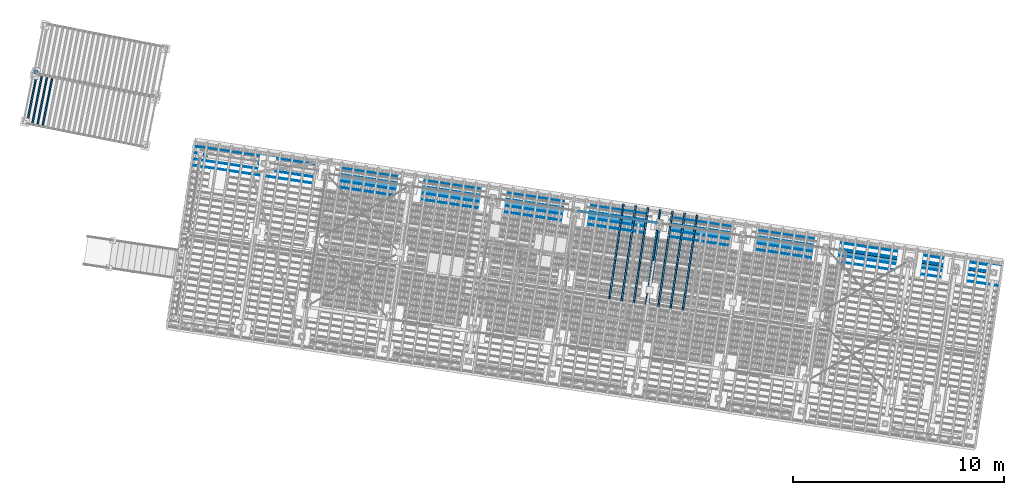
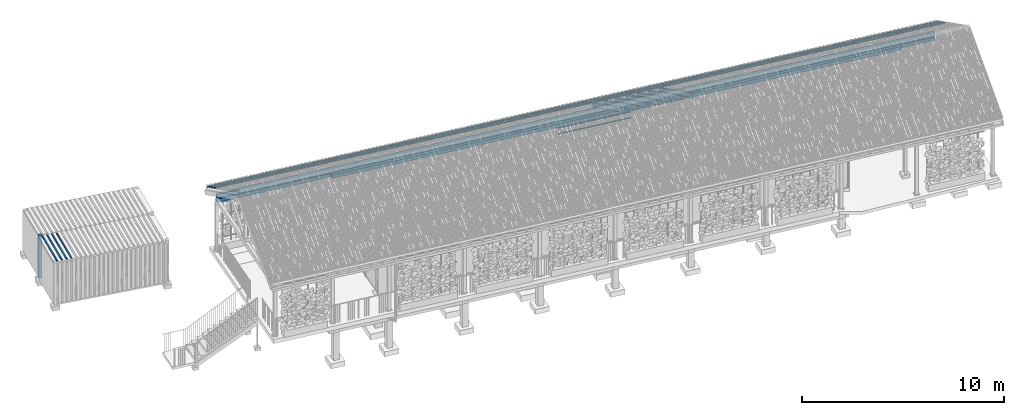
# One storey, part 81 of 131: 19 members, 3 beams, 4 elements without a shape of their own.
"""IFC4 building model written with IfcOpenShell, lengths in metres."""

import ifcopenshell
import ifcopenshell.guid

model = None  # the IFC model being written
_history = None  # IfcOwnerHistory: only IFC2X3 demands one
_inside = {}  # id of a spatial element -> (the spatial element, [elements in it])
_under = {}  # id of a project, library or spatial element -> (it, [spatial elements below it])
_declared = {}  # id of a project -> (the project, [libraries it declares])
_typed = {}  # id of a type object -> (the type object, [elements of that type])
_made_of = {}  # id of a material, layer set ... -> (it, [elements and type objects made of it])


def new_model(schema):
    """Start an empty IFC model of exactly this schema.

    Asked for "IFC4X3", IfcOpenShell would pick the latest addendum, in which some entities
    have other attributes; the version numbers below select the first issue.
    IFC2X3 requires an IfcOwnerHistory on every rooted entity: one is made here for all.
    """
    global model, _history
    if schema == "IFC4X3":
        model = ifcopenshell.file(schema_version=(4, 3, 0, 0))
    else:
        model = ifcopenshell.file(schema=schema)
    _inside.clear()
    _under.clear()
    _declared.clear()
    _typed.clear()
    _made_of.clear()
    _history = None
    if model.schema == "IFC2X3":
        org = make("IfcOrganization", Name="unknown")
        user = make(
            "IfcPersonAndOrganization",
            ThePerson=make("IfcPerson", FamilyName="unknown"),
            TheOrganization=org,
        )
        app = make(
            "IfcApplication",
            ApplicationDeveloper=org,
            Version="unknown",
            ApplicationFullName="unknown",
            ApplicationIdentifier="unknown",
        )
        _history = make(
            "IfcOwnerHistory",
            OwningUser=user,
            OwningApplication=app,
            ChangeAction="ADDED",
            CreationDate=0,
        )
    return model


def make(cls, **values):
    """One entity of the class cls with the attributes given. An attribute that is None is left unset."""
    return model.create_entity(
        cls, **{name: value for name, value in values.items() if value is not None}
    )


def rooted(cls, **values):
    """An entity with a GlobalId (a new one), such as an element, a storey or a relation."""
    return make(cls, GlobalId=ifcopenshell.guid.new(), OwnerHistory=_history, **values)


def si_unit(unit_type, name, prefix=None):
    """IfcSIUnit, for example si_unit("LENGTHUNIT", "METRE", prefix="MILLI")."""
    return make("IfcSIUnit", UnitType=unit_type, Prefix=prefix, Name=name)


def assignment(units):
    """IfcUnitAssignment: the units of a project."""
    return None if units is None else make("IfcUnitAssignment", Units=units)


def point(xyz):
    """IfcCartesianPoint."""
    return None if xyz is None else make("IfcCartesianPoint", Coordinates=xyz)


def direction(xyz):
    """IfcDirection."""
    return None if xyz is None else make("IfcDirection", DirectionRatios=xyz)


def frame(location, z_axis=None, x_axis=None):
    """IfcAxis2Placement3D, a coordinate frame: its origin and axes. An axis left out is left unset."""
    return make(
        "IfcAxis2Placement3D",
        Location=point(location),
        Axis=direction(z_axis),
        RefDirection=direction(x_axis),
    )


def origin_with_axes():
    """The frame at (0, 0, 0) with the z axis (0, 0, 1) and the x axis (1, 0, 0) written out."""
    return frame((0.0, 0.0, 0.0), z_axis=(0.0, 0.0, 1.0), x_axis=(1.0, 0.0, 0.0))


def place(relative_to, where):
    """IfcLocalPlacement: puts the frame where relative to a parent placement (None: the world)."""
    return make(
        "IfcLocalPlacement", PlacementRelTo=relative_to, RelativePlacement=where
    )


def context(
    kind, dimensions, precision=None, world=None, true_north=None, identifier=None
):
    """IfcGeometricRepresentationContext, for example the 3D "Model" context."""
    return make(
        "IfcGeometricRepresentationContext",
        ContextIdentifier=identifier,
        ContextType=kind,
        CoordinateSpaceDimension=dimensions,
        Precision=precision,
        WorldCoordinateSystem=world,
        TrueNorth=true_north,
    )


def subcontext(parent, identifier, kind, view, scale=None):
    """IfcGeometricRepresentationSubContext, for example "Body" below "Model"."""
    return make(
        "IfcGeometricRepresentationSubContext",
        ContextIdentifier=identifier,
        ContextType=kind,
        ParentContext=parent,
        TargetScale=scale,
        TargetView=view,
    )


def project(units=None, contexts=None):
    """IfcProject with its units and contexts."""
    return rooted(
        "IfcProject",
        Name="project",
        RepresentationContexts=contexts,
        UnitsInContext=assignment(units),
    )


def spatial(cls, under=None, at=None, **own):
    """A site, building, storey or space (cls), placed at a placement, below another one or the project."""
    s = rooted(cls, ObjectPlacement=at, **own)
    if under is not None:
        _under.setdefault(under.id(), (under, []))[1].append(s)
    return s


def polyline(points):
    """IfcPolyline through the points."""
    return make("IfcPolyline", Points=[point(p) for p in points])


def profile(cls, at=None, kind="AREA", **sizes):
    """A parametric profile (cls). Its sizes go by their IFC names, for example OverallWidth=200.0."""
    return make(cls, ProfileType=kind, Position=at, **sizes)


def rectangle(**sizes):
    """IfcRectangleProfileDef."""
    return profile("IfcRectangleProfileDef", **sizes)


def outline(outer, holes=None, kind="AREA"):
    """IfcArbitraryClosedProfileDef: a profile drawn as a closed curve; with holes, ...WithVoids."""
    if holes is None:
        return make("IfcArbitraryClosedProfileDef", ProfileType=kind, OuterCurve=outer)
    return make(
        "IfcArbitraryProfileDefWithVoids",
        ProfileType=kind,
        OuterCurve=outer,
        InnerCurves=holes,
    )


def extrude(swept, where, along, depth):
    """IfcExtrudedAreaSolid: the profile swept, set in the frame where, extruded along a direction by depth."""
    return make(
        "IfcExtrudedAreaSolid",
        SweptArea=swept,
        Position=where,
        ExtrudedDirection=direction(along),
        Depth=depth,
    )


def shape(context_of_items, identifier, shape_type, items):
    """IfcShapeRepresentation: the items that make up one representation, for example the "Body"."""
    return make(
        "IfcShapeRepresentation",
        ContextOfItems=context_of_items,
        RepresentationIdentifier=identifier,
        RepresentationType=shape_type,
        Items=items,
    )


def material(Name=None, Category=None):
    """IfcMaterial."""
    return make("IfcMaterial", Name=Name, Category=Category)


def material_profile(
    of_material, cross_section, Name=None, Category=None, Priority=None
):
    """IfcMaterialProfile: a cross section and its material."""
    return make(
        "IfcMaterialProfile",
        Name=Name,
        Material=of_material,
        Profile=cross_section,
        Priority=Priority,
        Category=Category,
    )


def profile_set(profiles, Name=None, composite=None):
    """IfcMaterialProfileSet."""
    return make(
        "IfcMaterialProfileSet",
        Name=Name,
        MaterialProfiles=profiles,
        CompositeProfile=composite,
    )


def profile_usage(for_profile_set, cardinal=None, extent=None):
    """IfcMaterialProfileSetUsage: how a profile set lies along its element."""
    return make(
        "IfcMaterialProfileSetUsage",
        ForProfileSet=for_profile_set,
        CardinalPoint=cardinal,
        ReferenceExtent=extent,
    )


def made_of(thing, what):
    """Note that an element or type object is made of a material, layer set ...; save() writes the relation."""
    if what is not None:
        _made_of.setdefault(what.id(), (what, []))[1].append(thing)
    return thing


def type_object(cls, material=None, **own):
    """A type object (cls), such as IfcWallType, which elements share."""
    return made_of(rooted(cls, **own), material)


def element(
    cls,
    number,
    at=None,
    inside=None,
    cuts=None,
    type_object=None,
    material=None,
    context=None,
    identifier="Body",
    shape_type=None,
    held_by="IfcProductDefinitionShape",
    body=None,
    shapes=None,
    **own,
):
    """One element of the class cls, such as IfcWall. Its Tag is "e" and its number.

    at: its placement. inside: the storey or other place that contains it. cuts: it is an
    opening in that element (IfcRelVoidsElement). A single representation is given by context,
    identifier, shape_type and body (its items); several are given by shapes. held_by: the class
    of the entity that holds the representations. save() writes the other relations.
    """
    e = rooted(cls, Tag="e%d" % number, ObjectPlacement=at, **own)
    if body is not None:
        shapes = [shape(context, identifier, shape_type, body)]
    if shapes is not None:
        e.Representation = make(held_by, Representations=shapes)
    if inside is not None:
        _inside.setdefault(inside.id(), (inside, []))[1].append(e)
    if cuts is not None:
        rooted(
            "IfcRelVoidsElement", RelatingBuildingElement=cuts, RelatedOpeningElement=e
        )
    if type_object is not None:
        _typed.setdefault(type_object.id(), (type_object, []))[1].append(e)
    return made_of(e, material)


def aggregate(whole, parts):
    """IfcRelAggregates: a whole, such as a stair, and the parts it consists of."""
    return rooted("IfcRelAggregates", RelatingObject=whole, RelatedObjects=parts)


def save(model, path):
    """Write the relations noted so far, then the file.

    IfcRelAggregates (storeys below a building ...), IfcRelContainedInSpatialStructure (elements
    in a storey), IfcRelDefinesByType, IfcRelAssociatesMaterial and IfcRelDeclares: one each for
    every whole, place, type object, material and project.
    """
    for whole, parts in _under.values():
        aggregate(whole, parts)
    for where, things in _inside.values():
        rooted(
            "IfcRelContainedInSpatialStructure",
            RelatedElements=things,
            RelatingStructure=where,
        )
    for kind, things in _typed.values():
        rooted("IfcRelDefinesByType", RelatedObjects=things, RelatingType=kind)
    for what, things in _made_of.values():
        rooted("IfcRelAssociatesMaterial", RelatedObjects=things, RelatingMaterial=what)
    for by, libraries in _declared.values():
        rooted("IfcRelDeclares", RelatingContext=by, RelatedDefinitions=libraries)
    model.write(path)


model = new_model("IFC4")

# Units and contexts
model_context = context("Model", 3, precision=1e-05, world=origin_with_axes(), true_north=direction((0.0, 1.0)))
body_context = subcontext(model_context, "Body", "Model", "MODEL_VIEW")
ifc_project = project(units=[si_unit("VOLUMEUNIT", "CUBIC_METRE"), si_unit("LENGTHUNIT", "METRE"), si_unit("AREAUNIT", "SQUARE_METRE")], contexts=[model_context])

# Site, building, storey
site_placement = place(None, origin_with_axes())
site = spatial("IfcSite", under=ifc_project, at=site_placement, Name="Lares · Rua das Mercês · artigo 4771")
building_placement = place(site_placement, frame((15.0, 9.7, 14.65), z_axis=(0.0, 0.0, 1.0), x_axis=(0.989015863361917, -0.147809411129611, 0.0)))
building = spatial("IfcBuilding", under=site, at=building_placement, Name="Casa Sobreposta")
storey_placement = place(building_placement, origin_with_axes())
storey = spatial("IfcBuildingStorey", under=building, at=storey_placement, Name="00 · Habitação e estacionamento", Elevation=14.65)

# Beam
ifc_material_1 = material(Name="Madeira / Bauholz", Category="wood")
ifc_material_profile_1 = material_profile(ifc_material_1, rectangle(XDim=0.16, YDim=0.22))
ifc_profile_set_1 = profile_set([ifc_material_profile_1], Name="TIMBER0.160x0.220")
ifc_profile_usage_1 = profile_usage(ifc_profile_set_1)
beam_type_1 = type_object("IfcBeamType", Name="TIMBER0.160x0.220 / timber", PredefinedType="NOTDEFINED", material=ifc_profile_set_1)
beam_1_placement = place(storey_placement, frame((0.0, 6.28, 3.0), z_axis=(1.0, 0.0, 0.0), x_axis=(0.0, -1.0, 0.0)))
element("IfcBeam", 1, at=beam_1_placement, inside=storey, type_object=beam_type_1, material=ifc_profile_usage_1, Name="Cobertura · frechal longitudinal", context=body_context, shape_type="SweptSolid", body=[
    extrude(rectangle(XDim=0.16, YDim=0.22), origin_with_axes(), (0.0, 0.0, 1.0), 30.22),
])

# Assembly, beam
assembly_1_placement = place(storey_placement, origin_with_axes())
assembly_1 = element("IfcElementAssembly", 2, at=assembly_1_placement, inside=storey, Name="Varanda coberta · continuação integral da cobertura", ObjectType="COVERED_PODIUM_BALCONY", PredefinedType="USERDEFINED")
ifc_profile_usage_2 = profile_usage(ifc_profile_set_1)
beam_2_placement = place(assembly_1_placement, frame((-6.05, 6.43, 3.0), z_axis=(1.0, 0.0, 0.0), x_axis=(0.0, -1.0, 0.0)))
beam_2 = element("IfcBeam", 3, at=beam_2_placement, type_object=beam_type_1, material=ifc_profile_usage_2, Name="Varanda coberta · frechal", context=body_context, shape_type="SweptSolid", body=[
    extrude(rectangle(XDim=0.16, YDim=0.22), origin_with_axes(), (0.0, 0.0, 1.0), 38.1),
])
aggregate(assembly_1, [beam_2])

# Members
ifc_material_2 = material(Name="Aço pintado / Stahl lackiert", Category="steel")
ifc_material_profile_2 = material_profile(ifc_material_2, rectangle(XDim=0.035, YDim=0.035))
ifc_profile_set_2 = profile_set([ifc_material_profile_2], Name="R0.035")
ifc_profile_usage_3 = profile_usage(ifc_profile_set_2)
member_type_1 = type_object("IfcMemberType", Name="R0.035 / steel", PredefinedType="NOTDEFINED", material=ifc_profile_set_2)
member_1_placement = place(storey_placement, frame((12.08, 6.4, 2.35), z_axis=(1.0, 0.0, 0.0), x_axis=(0.0, -1.0, 0.0)))
element("IfcMember", 4, at=member_1_placement, inside=storey, type_object=member_type_1, material=ifc_profile_usage_3, Name="Rasgo norte 4 · travessa", context=body_context, shape_type="SweptSolid", body=[
    extrude(rectangle(XDim=0.035, YDim=0.035), origin_with_axes(), (0.0, 0.0, 1.0), 3.84),
])
ifc_profile_usage_4 = profile_usage(ifc_profile_set_2)
member_2_placement = place(storey_placement, frame((12.08, 6.4, 2.7), z_axis=(1.0, 0.0, 0.0), x_axis=(0.0, -1.0, 0.0)))
element("IfcMember", 5, at=member_2_placement, inside=storey, type_object=member_type_1, material=ifc_profile_usage_4, Name="Rasgo norte 4 · travessa", context=body_context, shape_type="SweptSolid", body=[
    extrude(rectangle(XDim=0.035, YDim=0.035), origin_with_axes(), (0.0, 0.0, 1.0), 3.84),
])

# Roof, members, beam
roof_placement = place(storey_placement, origin_with_axes())
roof = element("IfcRoof", 6, at=roof_placement, inside=storey, material=ifc_material_1, Name="Cobertura de telha · duas águas 30 graus", PredefinedType="GABLE_ROOF")
ifc_material_profile_3 = material_profile(ifc_material_1, rectangle(XDim=0.16, YDim=0.24))
ifc_profile_set_3 = profile_set([ifc_material_profile_3], Name="TIMBER0.160x0.240")
ifc_profile_usage_5 = profile_usage(ifc_profile_set_3)
member_type_2 = type_object("IfcMemberType", Name="TIMBER0.160x0.240 / timber", PredefinedType="NOTDEFINED", material=ifc_profile_set_3)
member_3_placement = place(roof_placement, frame((16.0, 2.55, 5.74420869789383), z_axis=(0.0, 0.866025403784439, -0.5), x_axis=(1.0, 0.0, 0.0)))
member_3 = element("IfcMember", 7, at=member_3_placement, type_object=member_type_2, material=ifc_profile_usage_5, Name="Tesoura · perna", context=body_context, shape_type="SweptSolid", body=[
    extrude(rectangle(XDim=0.16, YDim=0.24), origin_with_axes(), (0.0, 0.0, 1.0), 4.4802380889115),
])
ifc_material_profile_4 = material_profile(ifc_material_1, rectangle(XDim=0.08, YDim=0.24))
ifc_profile_set_4 = profile_set([ifc_material_profile_4], Name="TIMBER0.080x0.240")
ifc_profile_usage_6 = profile_usage(ifc_profile_set_4)
member_type_3 = type_object("IfcMemberType", Name="TIMBER0.080x0.240 / timber", PredefinedType="NOTDEFINED", material=ifc_profile_set_4)
member_4_placement = place(roof_placement, frame((14.1757575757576, 2.55, 5.75020869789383), z_axis=(0.0, 0.866025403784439, -0.5), x_axis=(1.0, 0.0, 0.0)))
member_4 = element("IfcMember", 8, at=member_4_placement, type_object=member_type_3, material=ifc_profile_usage_6, Name="Cobertura · caibro", context=body_context, shape_type="SweptSolid", body=[
    extrude(rectangle(XDim=0.08, YDim=0.24), origin_with_axes(), (0.0, 0.0, 1.0), 5.13841739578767),
])
ifc_profile_usage_7 = profile_usage(ifc_profile_set_4)
member_5_placement = place(roof_placement, frame((14.7636363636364, 2.55, 5.75020869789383), z_axis=(0.0, 0.866025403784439, -0.5), x_axis=(1.0, 0.0, 0.0)))
member_5 = element("IfcMember", 9, at=member_5_placement, type_object=member_type_3, material=ifc_profile_usage_7, Name="Cobertura · caibro", context=body_context, shape_type="SweptSolid", body=[
    extrude(rectangle(XDim=0.08, YDim=0.24), origin_with_axes(), (0.0, 0.0, 1.0), 5.13841739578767),
])
ifc_profile_usage_8 = profile_usage(ifc_profile_set_4)
member_6_placement = place(roof_placement, frame((15.3515151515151, 2.55, 5.75020869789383), z_axis=(0.0, 0.866025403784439, -0.5), x_axis=(1.0, 0.0, 0.0)))
member_6 = element("IfcMember", 10, at=member_6_placement, type_object=member_type_3, material=ifc_profile_usage_8, Name="Cobertura · caibro", context=body_context, shape_type="SweptSolid", body=[
    extrude(rectangle(XDim=0.08, YDim=0.24), origin_with_axes(), (0.0, 0.0, 1.0), 5.13841739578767),
])
ifc_profile_usage_9 = profile_usage(ifc_profile_set_4)
member_7_placement = place(roof_placement, frame((15.9393939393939, 2.55, 5.75020869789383), z_axis=(0.0, 0.866025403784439, -0.5), x_axis=(1.0, 0.0, 0.0)))
member_7 = element("IfcMember", 11, at=member_7_placement, type_object=member_type_3, material=ifc_profile_usage_9, Name="Cobertura · caibro", context=body_context, shape_type="SweptSolid", body=[
    extrude(rectangle(XDim=0.08, YDim=0.24), origin_with_axes(), (0.0, 0.0, 1.0), 5.13841739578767),
])
ifc_profile_usage_10 = profile_usage(ifc_profile_set_4)
member_8_placement = place(roof_placement, frame((16.5272727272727, 2.55, 5.75020869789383), z_axis=(0.0, 0.866025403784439, -0.5), x_axis=(1.0, 0.0, 0.0)))
member_8 = element("IfcMember", 12, at=member_8_placement, type_object=member_type_3, material=ifc_profile_usage_10, Name="Cobertura · caibro", context=body_context, shape_type="SweptSolid", body=[
    extrude(rectangle(XDim=0.08, YDim=0.24), origin_with_axes(), (0.0, 0.0, 1.0), 5.13841739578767),
])
ifc_profile_usage_11 = profile_usage(ifc_profile_set_4)
member_9_placement = place(roof_placement, frame((17.1151515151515, 2.55, 5.75020869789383), z_axis=(0.0, 0.866025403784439, -0.5), x_axis=(1.0, 0.0, 0.0)))
member_9 = element("IfcMember", 13, at=member_9_placement, type_object=member_type_3, material=ifc_profile_usage_11, Name="Cobertura · caibro", context=body_context, shape_type="SweptSolid", body=[
    extrude(rectangle(XDim=0.08, YDim=0.24), origin_with_axes(), (0.0, 0.0, 1.0), 5.13841739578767),
])
ifc_profile_usage_12 = profile_usage(ifc_profile_set_4)
member_10_placement = place(roof_placement, frame((17.7030303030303, 2.55, 5.75020869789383), z_axis=(0.0, 0.866025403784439, -0.5), x_axis=(1.0, 0.0, 0.0)))
member_10 = element("IfcMember", 14, at=member_10_placement, type_object=member_type_3, material=ifc_profile_usage_12, Name="Cobertura · caibro", context=body_context, shape_type="SweptSolid", body=[
    extrude(rectangle(XDim=0.08, YDim=0.24), origin_with_axes(), (0.0, 0.0, 1.0), 5.13841739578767),
])
ifc_material_profile_5 = material_profile(ifc_material_1, rectangle(XDim=0.14, YDim=0.22))
ifc_profile_set_5 = profile_set([ifc_material_profile_5], Name="TIMBER0.140x0.220")
ifc_profile_usage_13 = profile_usage(ifc_profile_set_5)
beam_type_2 = type_object("IfcBeamType", Name="TIMBER0.140x0.220 / timber", PredefinedType="NOTDEFINED", material=ifc_profile_set_5)
beam_3_placement = place(roof_placement, frame((-6.05, 6.43, 3.25908965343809), z_axis=(1.0, 0.0, 0.0), x_axis=(0.0, -1.0, 0.0)))
beam_3 = element("IfcBeam", 15, at=beam_3_placement, type_object=beam_type_2, material=ifc_profile_usage_13, Name="Cobertura · terça", context=body_context, shape_type="SweptSolid", body=[
    extrude(rectangle(XDim=0.14, YDim=0.22), origin_with_axes(), (0.0, 0.0, 1.0), 38.1),
])
ifc_material_profile_6 = material_profile(ifc_material_1, rectangle(XDim=0.045, YDim=0.06))
ifc_profile_set_6 = profile_set([ifc_material_profile_6], Name="TIMBER0.045x0.060")
ifc_profile_usage_14 = profile_usage(ifc_profile_set_6)
member_type_4 = type_object("IfcMemberType", Name="TIMBER0.045x0.060 / timber", PredefinedType="NOTDEFINED", material=ifc_profile_set_6)
member_11_placement = place(roof_placement, frame((-6.4, 5.85, 4.19795280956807), z_axis=(1.0, 0.0, 0.0), x_axis=(0.0, -1.0, 0.0)))
member_11 = element("IfcMember", 16, at=member_11_placement, type_object=member_type_4, material=ifc_profile_usage_14, Name="Cobertura · ripa ventilada", context=body_context, shape_type="SweptSolid", body=[
    extrude(rectangle(XDim=0.045, YDim=0.06), origin_with_axes(), (0.0, 0.0, 1.0), 38.8),
])
ifc_profile_usage_15 = profile_usage(ifc_profile_set_6)
member_12_placement = place(roof_placement, frame((-6.4, 6.15, 4.02474772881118), z_axis=(1.0, 0.0, 0.0), x_axis=(0.0, -1.0, 0.0)))
member_12 = element("IfcMember", 17, at=member_12_placement, type_object=member_type_4, material=ifc_profile_usage_15, Name="Cobertura · ripa ventilada", context=body_context, shape_type="SweptSolid", body=[
    extrude(rectangle(XDim=0.045, YDim=0.06), origin_with_axes(), (0.0, 0.0, 1.0), 38.8),
])
ifc_profile_usage_16 = profile_usage(ifc_profile_set_6)
member_13_placement = place(roof_placement, frame((-6.4, 6.45, 3.8515426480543), z_axis=(1.0, 0.0, 0.0), x_axis=(0.0, -1.0, 0.0)))
member_13 = element("IfcMember", 18, at=member_13_placement, type_object=member_type_4, material=ifc_profile_usage_16, Name="Cobertura · ripa ventilada", context=body_context, shape_type="SweptSolid", body=[
    extrude(rectangle(XDim=0.045, YDim=0.06), origin_with_axes(), (0.0, 0.0, 1.0), 38.8),
])
ifc_profile_usage_17 = profile_usage(ifc_profile_set_6)
member_14_placement = place(roof_placement, frame((-6.4, 6.75, 3.67833756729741), z_axis=(1.0, 0.0, 0.0), x_axis=(0.0, -1.0, 0.0)))
member_14 = element("IfcMember", 19, at=member_14_placement, type_object=member_type_4, material=ifc_profile_usage_17, Name="Cobertura · ripa ventilada", context=body_context, shape_type="SweptSolid", body=[
    extrude(rectangle(XDim=0.045, YDim=0.06), origin_with_axes(), (0.0, 0.0, 1.0), 38.8),
])
aggregate(roof, [member_3, member_4, member_5, member_6, member_7, member_8, member_9, member_10, beam_3, member_11, member_12, member_13, member_14])

# Assembly, member
assembly_2_placement = place(storey_placement, frame((-14.4335953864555, 9.04888612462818, 0.0), z_axis=(0.0, 0.0, 1.0), x_axis=(0.999032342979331, -0.0439815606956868, 0.0)))
assembly_2 = element("IfcElementAssembly", 20, at=assembly_2_placement, inside=storey, Name="Contentor existente 1 · 6 m", ObjectType="EXISTING_SHIPPING_CONTAINER", PredefinedType="USERDEFINED")
ifc_material_3 = material(Name="Contentor · pintura 1", Category="steel")
member_15_placement = place(assembly_2_placement, frame((0.0, 0.0, -1.3), z_axis=(0.0, 0.0, 1.0), x_axis=(1.0, 0.0, 0.0)))
member_15 = element("IfcMember", 21, at=member_15_placement, material=ifc_material_3, Name="Contentor · canto", context=body_context, shape_type="SweptSolid", body=[
    extrude(outline(polyline([(0.16, 0.0), (0.16, 0.16), (0.0, 0.16), (0.0, 0.0), (0.16, 0.0)])), origin_with_axes(), (0.0, 0.0, 1.0), 2.59),
])
aggregate(assembly_2, [member_15])

# Assembly, members
assembly_3_placement = place(storey_placement, frame((-14.5932944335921, 6.63122214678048, 0.0), z_axis=(0.0, 0.0, 1.0), x_axis=(0.998832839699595, -0.0483007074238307, 0.0)))
assembly_3 = element("IfcElementAssembly", 22, at=assembly_3_placement, inside=storey, Name="Contentor existente 2 · 6 m", ObjectType="EXISTING_SHIPPING_CONTAINER", PredefinedType="USERDEFINED")
ifc_material_4 = material(Name="Contentor · pintura 2", Category="steel")
member_16_placement = place(assembly_3_placement, frame((0.0, 0.0, 1.285), z_axis=(0.0, 0.0, 1.0), x_axis=(1.0, 0.0, 0.0)))
member_16 = element("IfcMember", 23, at=member_16_placement, material=ifc_material_4, Name="Contentor · nervura cobertura", context=body_context, shape_type="SweptSolid", body=[
    extrude(outline(polyline([(0.23, 0.08), (0.23, 2.36), (0.15, 2.36), (0.15, 0.08), (0.23, 0.08)])), origin_with_axes(), (0.0, 0.0, 1.0), 0.018),
])
member_17_placement = place(assembly_3_placement, frame((0.0, 0.0, 1.285), z_axis=(0.0, 0.0, 1.0), x_axis=(1.0, 0.0, 0.0)))
member_17 = element("IfcMember", 24, at=member_17_placement, material=ifc_material_4, Name="Contentor · nervura cobertura", context=body_context, shape_type="SweptSolid", body=[
    extrude(outline(polyline([(0.48, 0.08), (0.48, 2.36), (0.4, 2.36), (0.4, 0.08), (0.48, 0.08)])), origin_with_axes(), (0.0, 0.0, 1.0), 0.018),
])
member_18_placement = place(assembly_3_placement, frame((0.0, 0.0, 1.285), z_axis=(0.0, 0.0, 1.0), x_axis=(1.0, 0.0, 0.0)))
member_18 = element("IfcMember", 25, at=member_18_placement, material=ifc_material_4, Name="Contentor · nervura cobertura", context=body_context, shape_type="SweptSolid", body=[
    extrude(outline(polyline([(0.73, 0.08), (0.73, 2.36), (0.65, 2.36), (0.65, 0.08), (0.73, 0.08)])), origin_with_axes(), (0.0, 0.0, 1.0), 0.018),
])
member_19_placement = place(assembly_3_placement, frame((0.0, 0.0, 1.285), z_axis=(0.0, 0.0, 1.0), x_axis=(1.0, 0.0, 0.0)))
member_19 = element("IfcMember", 26, at=member_19_placement, material=ifc_material_4, Name="Contentor · nervura cobertura", context=body_context, shape_type="SweptSolid", body=[
    extrude(outline(polyline([(0.98, 0.08), (0.98, 2.36), (0.9, 2.36), (0.9, 0.08), (0.98, 0.08)])), origin_with_axes(), (0.0, 0.0, 1.0), 0.018),
])
aggregate(assembly_3, [member_16, member_17, member_18, member_19])

save(model, "model.ifc")
